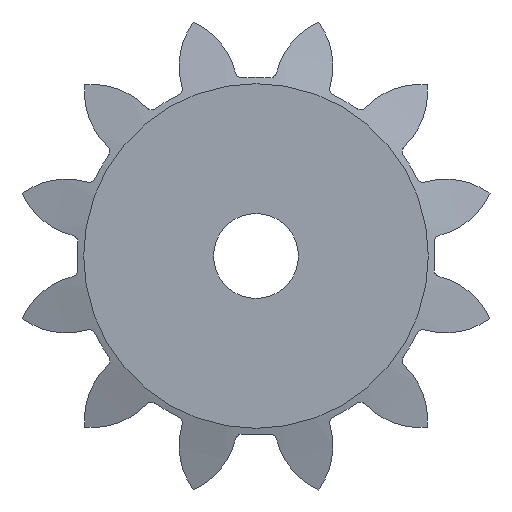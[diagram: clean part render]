
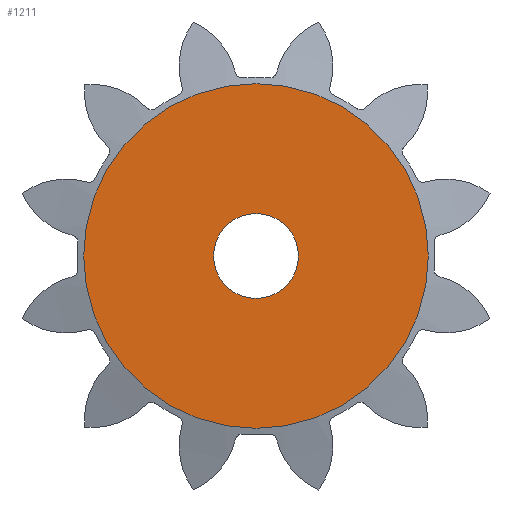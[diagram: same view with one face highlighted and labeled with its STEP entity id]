
A CAD part, left-side view. The second image highlights one B-rep face of the part: STEP entity #1211.
In plain terms, the highlighted planar face has unit normal (-1, 0, 0).
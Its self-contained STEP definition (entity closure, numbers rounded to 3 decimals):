
#76=FACE_BOUND('',#333,.T.);
#78=PLANE('',#1256);
#266=FACE_OUTER_BOUND('',#332,.T.);
#332=EDGE_LOOP('',(#1144));
#333=EDGE_LOOP('',(#1145));
#437=CIRCLE('',#1237,0.5);
#445=CIRCLE('',#1246,2.03);
#454=VERTEX_POINT('',#1358);
#487=VERTEX_POINT('',#1857);
#581=EDGE_CURVE('',#454,#454,#437,.T.);
#614=EDGE_CURVE('',#487,#487,#445,.T.);
#1144=ORIENTED_EDGE('',*,*,#614,.T.);
#1145=ORIENTED_EDGE('',*,*,#581,.T.);
#1211=ADVANCED_FACE('',(#266,#76),#78,.T.);
#1237=AXIS2_PLACEMENT_3D('',#1360,#1264,#1265);
#1246=AXIS2_PLACEMENT_3D('',#1859,#1283,#1284);
#1256=AXIS2_PLACEMENT_3D('',#3571,#1352,#1353);
#1264=DIRECTION('center_axis',(1.,0.,0.));
#1265=DIRECTION('ref_axis',(0.,0.,1.));
#1283=DIRECTION('center_axis',(-1.,0.,0.));
#1284=DIRECTION('ref_axis',(0.,0.,1.));
#1352=DIRECTION('center_axis',(-1.,0.,0.));
#1353=DIRECTION('ref_axis',(0.,0.,1.));
#1358=CARTESIAN_POINT('',(0.,0.,-0.5));
#1360=CARTESIAN_POINT('Origin',(0.,0.,0.));
#1857=CARTESIAN_POINT('',(0.,0.,2.03));
#1859=CARTESIAN_POINT('Origin',(0.,0.,0.));
#3571=CARTESIAN_POINT('Origin',(0.,0.,0.));
